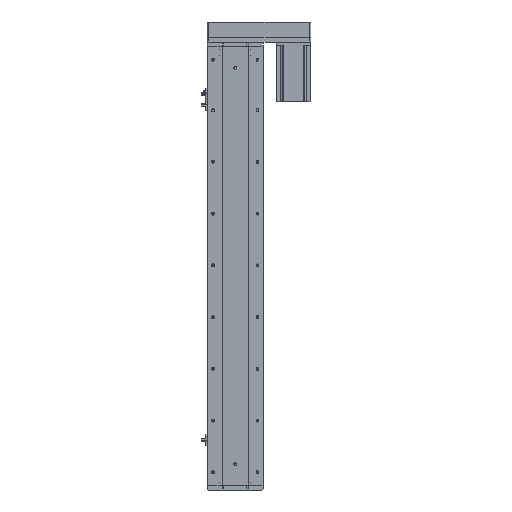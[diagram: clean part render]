
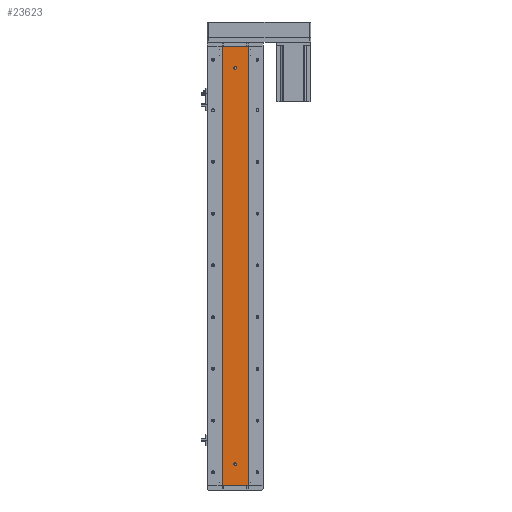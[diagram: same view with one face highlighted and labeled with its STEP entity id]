
A CAD part, left-side view. The second image highlights one B-rep face of the part: STEP entity #23623.
In plain terms, the highlighted planar face has unit normal (-1, 0, 0).
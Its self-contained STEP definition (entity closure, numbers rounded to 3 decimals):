
#568 = FACE_BOUND ( 'NONE', #36799, .T. ) ;
#1379 = CARTESIAN_POINT ( 'NONE',  ( -24.994, 0., 50. ) ) ;
#2770 = DIRECTION ( 'NONE',  ( 0., 0., 1. ) ) ;
#2852 = EDGE_CURVE ( 'NONE', #40468, #24369, #38720, .T. ) ;
#3064 = EDGE_LOOP ( 'NONE', ( #12458, #13955, #9834, #16812 ) ) ;
#4177 = CARTESIAN_POINT ( 'NONE',  ( -24.994, -29.785, 1019. ) ) ;
#4372 = VECTOR ( 'NONE', #7001, 1000. ) ;
#4972 = DIRECTION ( 'NONE',  ( 0., 0., 1. ) ) ;
#5962 = DIRECTION ( 'NONE',  ( -1., 0., 0. ) ) ;
#6734 = CIRCLE ( 'NONE', #25293, 3. ) ;
#7001 = DIRECTION ( 'NONE',  ( 0., 0., -1. ) ) ;
#7199 = CARTESIAN_POINT ( 'NONE',  ( -24.994, -29.785, 1019. ) ) ;
#8548 = LINE ( 'NONE', #39120, #36296 ) ;
#8658 = VERTEX_POINT ( 'NONE', #20369 ) ;
#9338 = CIRCLE ( 'NONE', #43224, 3. ) ;
#9834 = ORIENTED_EDGE ( 'NONE', *, *, #37404, .F. ) ;
#10916 = VERTEX_POINT ( 'NONE', #28113 ) ;
#11063 = EDGE_CURVE ( 'NONE', #8658, #33847, #30998, .T. ) ;
#12060 = CARTESIAN_POINT ( 'NONE',  ( -24.994, 0., 53. ) ) ;
#12437 = CARTESIAN_POINT ( 'NONE',  ( -24.994, 0., 969. ) ) ;
#12458 = ORIENTED_EDGE ( 'NONE', *, *, #45344, .T. ) ;
#13955 = ORIENTED_EDGE ( 'NONE', *, *, #2852, .F. ) ;
#14464 = PLANE ( 'NONE',  #20173 ) ;
#14623 = DIRECTION ( 'NONE',  ( 1., 0., 0. ) ) ;
#14647 = AXIS2_PLACEMENT_3D ( 'NONE', #12437, #37761, #16047 ) ;
#14973 = CARTESIAN_POINT ( 'NONE',  ( -24.994, 0., 966. ) ) ;
#15771 = EDGE_CURVE ( 'NONE', #26099, #41847, #6734, .T. ) ;
#16047 = DIRECTION ( 'NONE',  ( 0., 0., 1. ) ) ;
#16812 = ORIENTED_EDGE ( 'NONE', *, *, #11063, .T. ) ;
#16853 = CIRCLE ( 'NONE', #27738, 3. ) ;
#16921 = CARTESIAN_POINT ( 'NONE',  ( -24.994, 29.785, 1019. ) ) ;
#20173 = AXIS2_PLACEMENT_3D ( 'NONE', #36327, #14623, #39989 ) ;
#20369 = CARTESIAN_POINT ( 'NONE',  ( -24.994, 29.785, 1019. ) ) ;
#22117 = CIRCLE ( 'NONE', #14647, 3. ) ;
#23608 = EDGE_LOOP ( 'NONE', ( #38730, #33104 ) ) ;
#23623 = ADVANCED_FACE ( 'NONE', ( #568, #37941, #31722 ), #14464, .F. ) ;
#24369 = VERTEX_POINT ( 'NONE', #36744 ) ;
#24433 = DIRECTION ( 'NONE',  ( -1., 0., 0. ) ) ;
#25293 = AXIS2_PLACEMENT_3D ( 'NONE', #27625, #5962, #31275 ) ;
#26099 = VERTEX_POINT ( 'NONE', #12060 ) ;
#26666 = DIRECTION ( 'NONE',  ( -1., 0., 0. ) ) ;
#27078 = VECTOR ( 'NONE', #42262, 1000. ) ;
#27625 = CARTESIAN_POINT ( 'NONE',  ( -24.994, 0., 50. ) ) ;
#27738 = AXIS2_PLACEMENT_3D ( 'NONE', #1379, #26666, #4972 ) ;
#28113 = CARTESIAN_POINT ( 'NONE',  ( -24.994, 0., 972. ) ) ;
#28189 = EDGE_CURVE ( 'NONE', #29682, #10916, #22117, .T. ) ;
#28252 = CARTESIAN_POINT ( 'NONE',  ( -24.994, 29.785, 0. ) ) ;
#28665 = CARTESIAN_POINT ( 'NONE',  ( -24.994, 29.785, 1019. ) ) ;
#29362 = LINE ( 'NONE', #16921, #27078 ) ;
#29515 = DIRECTION ( 'NONE',  ( 0., 0., -1. ) ) ;
#29682 = VERTEX_POINT ( 'NONE', #14973 ) ;
#30998 = LINE ( 'NONE', #28665, #4372 ) ;
#31275 = DIRECTION ( 'NONE',  ( 0., 0., 1. ) ) ;
#31643 = ORIENTED_EDGE ( 'NONE', *, *, #35409, .F. ) ;
#31722 = FACE_OUTER_BOUND ( 'NONE', #3064, .T. ) ;
#33104 = ORIENTED_EDGE ( 'NONE', *, *, #41745, .F. ) ;
#33847 = VERTEX_POINT ( 'NONE', #28252 ) ;
#34552 = CARTESIAN_POINT ( 'NONE',  ( -24.994, 0., 47. ) ) ;
#35409 = EDGE_CURVE ( 'NONE', #10916, #29682, #9338, .T. ) ;
#36296 = VECTOR ( 'NONE', #42771, 1000. ) ;
#36327 = CARTESIAN_POINT ( 'NONE',  ( -24.994, 29.785, 1019. ) ) ;
#36744 = CARTESIAN_POINT ( 'NONE',  ( -24.994, -29.785, 0. ) ) ;
#36799 = EDGE_LOOP ( 'NONE', ( #31643, #40270 ) ) ;
#37404 = EDGE_CURVE ( 'NONE', #8658, #40468, #29362, .T. ) ;
#37559 = VECTOR ( 'NONE', #29515, 1000. ) ;
#37761 = DIRECTION ( 'NONE',  ( -1., 0., 0. ) ) ;
#37941 = FACE_BOUND ( 'NONE', #23608, .T. ) ;
#38720 = LINE ( 'NONE', #4177, #37559 ) ;
#38730 = ORIENTED_EDGE ( 'NONE', *, *, #15771, .F. ) ;
#39120 = CARTESIAN_POINT ( 'NONE',  ( -24.994, 29.785, 0. ) ) ;
#39989 = DIRECTION ( 'NONE',  ( 0., 0., -1. ) ) ;
#40270 = ORIENTED_EDGE ( 'NONE', *, *, #28189, .F. ) ;
#40468 = VERTEX_POINT ( 'NONE', #7199 ) ;
#41745 = EDGE_CURVE ( 'NONE', #41847, #26099, #16853, .T. ) ;
#41847 = VERTEX_POINT ( 'NONE', #34552 ) ;
#42262 = DIRECTION ( 'NONE',  ( 0., -1., 0. ) ) ;
#42771 = DIRECTION ( 'NONE',  ( 0., -1., 0. ) ) ;
#43224 = AXIS2_PLACEMENT_3D ( 'NONE', #46142, #24433, #2770 ) ;
#45344 = EDGE_CURVE ( 'NONE', #33847, #24369, #8548, .T. ) ;
#46142 = CARTESIAN_POINT ( 'NONE',  ( -24.994, 0., 969. ) ) ;
